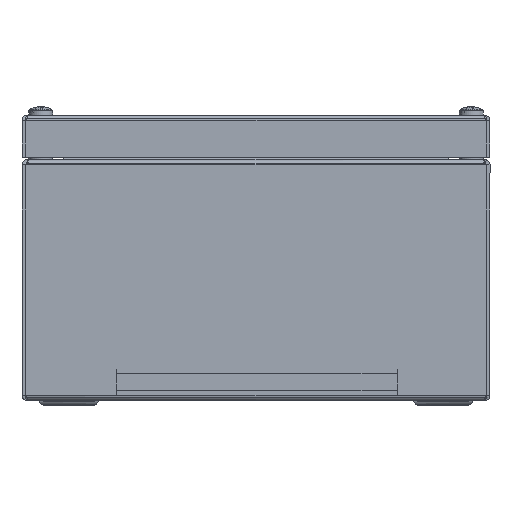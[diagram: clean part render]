
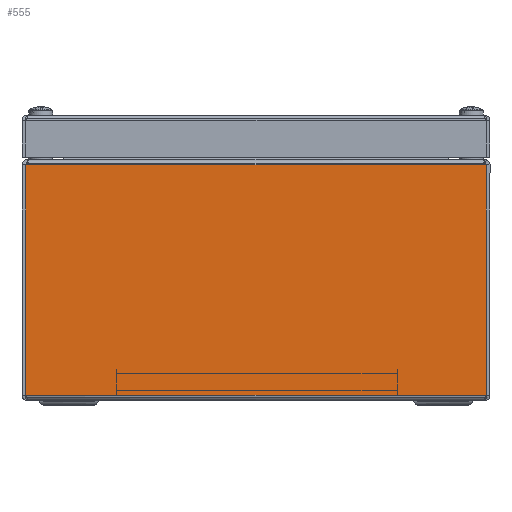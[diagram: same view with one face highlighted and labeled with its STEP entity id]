
A CAD part, front view. The second image highlights one B-rep face of the part: STEP entity #555.
In plain terms, the highlighted planar face has unit normal (0, -1, 0).
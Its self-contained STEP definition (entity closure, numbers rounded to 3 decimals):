
#555 = ADVANCED_FACE ( 'NONE', ( #5220 ), #9840, .F. ) ;
#939 = VERTEX_POINT ( 'NONE', #14221 ) ;
#2321 = CARTESIAN_POINT ( 'NONE',  ( 0., -300., 0. ) ) ;
#2748 = LINE ( 'NONE', #8270, #15321 ) ;
#2905 = CARTESIAN_POINT ( 'NONE',  ( -98.429, -300., 0.737 ) ) ;
#2982 = ORIENTED_EDGE ( 'NONE', *, *, #13976, .T. ) ;
#3145 = VERTEX_POINT ( 'NONE', #16161 ) ;
#3725 = EDGE_CURVE ( 'NONE', #3145, #939, #6179, .T. ) ;
#3813 = LINE ( 'NONE', #11977, #12111 ) ;
#4141 = VERTEX_POINT ( 'NONE', #2905 ) ;
#4628 = EDGE_CURVE ( 'NONE', #14686, #4141, #3813, .T. ) ;
#4645 = DIRECTION ( 'NONE',  ( 0., 0., 1. ) ) ;
#5220 = FACE_OUTER_BOUND ( 'NONE', #9912, .T. ) ;
#6179 = LINE ( 'NONE', #8287, #7565 ) ;
#7565 = VECTOR ( 'NONE', #12041, 1000. ) ;
#8141 = ORIENTED_EDGE ( 'NONE', *, *, #15113, .F. ) ;
#8270 = CARTESIAN_POINT ( 'NONE',  ( 98.429, -300., 0.737 ) ) ;
#8287 = CARTESIAN_POINT ( 'NONE',  ( 98.429, -300., 99.263 ) ) ;
#8412 = VECTOR ( 'NONE', #12589, 1000. ) ;
#9442 = DIRECTION ( 'NONE',  ( -1., 0., 0. ) ) ;
#9840 = PLANE ( 'NONE',  #16282 ) ;
#9895 = DIRECTION ( 'NONE',  ( 0., 0., 1. ) ) ;
#9912 = EDGE_LOOP ( 'NONE', ( #15021, #8141, #11967, #2982 ) ) ;
#11967 = ORIENTED_EDGE ( 'NONE', *, *, #4628, .F. ) ;
#11977 = CARTESIAN_POINT ( 'NONE',  ( -100., -300., 0.737 ) ) ;
#12041 = DIRECTION ( 'NONE',  ( -1., 0., 0. ) ) ;
#12111 = VECTOR ( 'NONE', #9442, 1000. ) ;
#12589 = DIRECTION ( 'NONE',  ( 0., 0., 1. ) ) ;
#12647 = CARTESIAN_POINT ( 'NONE',  ( -98.429, -300., 0.737 ) ) ;
#13976 = EDGE_CURVE ( 'NONE', #14686, #3145, #2748, .T. ) ;
#14221 = CARTESIAN_POINT ( 'NONE',  ( -98.429, -300., 99.263 ) ) ;
#14686 = VERTEX_POINT ( 'NONE', #15003 ) ;
#15003 = CARTESIAN_POINT ( 'NONE',  ( 98.429, -300., 0.737 ) ) ;
#15021 = ORIENTED_EDGE ( 'NONE', *, *, #3725, .T. ) ;
#15052 = DIRECTION ( 'NONE',  ( 0., 1., 0. ) ) ;
#15108 = LINE ( 'NONE', #12647, #8412 ) ;
#15113 = EDGE_CURVE ( 'NONE', #4141, #939, #15108, .T. ) ;
#15321 = VECTOR ( 'NONE', #4645, 1000. ) ;
#16161 = CARTESIAN_POINT ( 'NONE',  ( 98.429, -300., 99.263 ) ) ;
#16282 = AXIS2_PLACEMENT_3D ( 'NONE', #2321, #15052, #9895 ) ;
